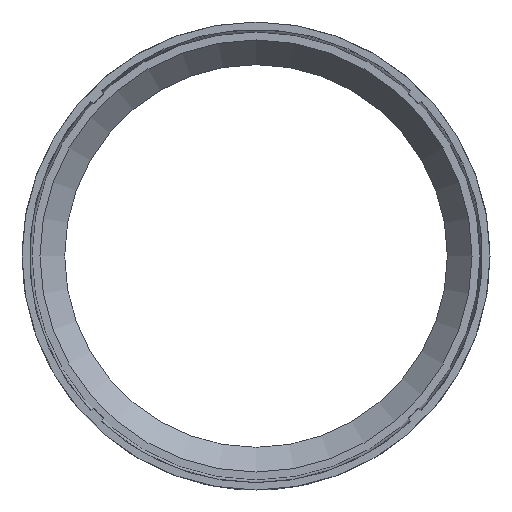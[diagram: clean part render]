
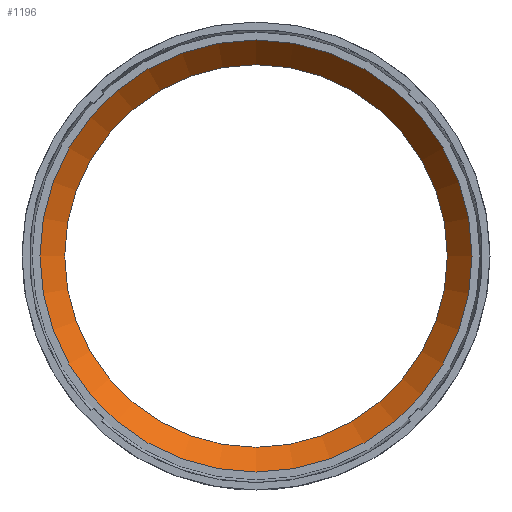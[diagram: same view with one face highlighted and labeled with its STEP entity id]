
A CAD part, front view. The second image highlights one B-rep face of the part: STEP entity #1196.
In plain terms, the highlighted conical face has half-angle 40 degrees and reference radius 68.76 mm.
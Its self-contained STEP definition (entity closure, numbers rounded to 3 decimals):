
#159=LINE('',#7000,#228);
#228=VECTOR('',#1686,68.76);
#243=CONICAL_SURFACE('',#1353,68.76,0.698);
#319=FACE_OUTER_BOUND('',#396,.T.);
#396=EDGE_LOOP('',(#1093,#1094,#1095,#1096));
#473=CIRCLE('',#1352,72.924);
#474=CIRCLE('',#1354,64.597);
#584=VERTEX_POINT('',#6996);
#585=VERTEX_POINT('',#6999);
#754=EDGE_CURVE('',#584,#584,#473,.T.);
#755=EDGE_CURVE('',#584,#585,#159,.T.);
#756=EDGE_CURVE('',#585,#585,#474,.T.);
#1093=ORIENTED_EDGE('',*,*,#754,.T.);
#1094=ORIENTED_EDGE('',*,*,#755,.T.);
#1095=ORIENTED_EDGE('',*,*,#756,.F.);
#1096=ORIENTED_EDGE('',*,*,#755,.F.);
#1196=ADVANCED_FACE('',(#319),#243,.F.);
#1352=AXIS2_PLACEMENT_3D('',#6997,#1682,#1683);
#1353=AXIS2_PLACEMENT_3D('',#6998,#1684,#1685);
#1354=AXIS2_PLACEMENT_3D('',#7001,#1687,#1688);
#1682=DIRECTION('center_axis',(0.,-1.,0.));
#1683=DIRECTION('ref_axis',(1.,0.,0.));
#1684=DIRECTION('center_axis',(0.,-1.,0.));
#1685=DIRECTION('ref_axis',(0.,0.,1.));
#1686=DIRECTION('',(0.,0.766,0.643));
#1687=DIRECTION('center_axis',(0.,-1.,0.));
#1688=DIRECTION('ref_axis',(1.,0.,0.));
#6996=CARTESIAN_POINT('',(0.,31.025,-72.924));
#6997=CARTESIAN_POINT('Origin',(0.,31.025,0.));
#6998=CARTESIAN_POINT('Origin',(0.,35.987,0.));
#6999=CARTESIAN_POINT('',(0.,40.949,-64.597));
#7000=CARTESIAN_POINT('',(0.,35.987,-68.76));
#7001=CARTESIAN_POINT('Origin',(0.,40.949,0.));
